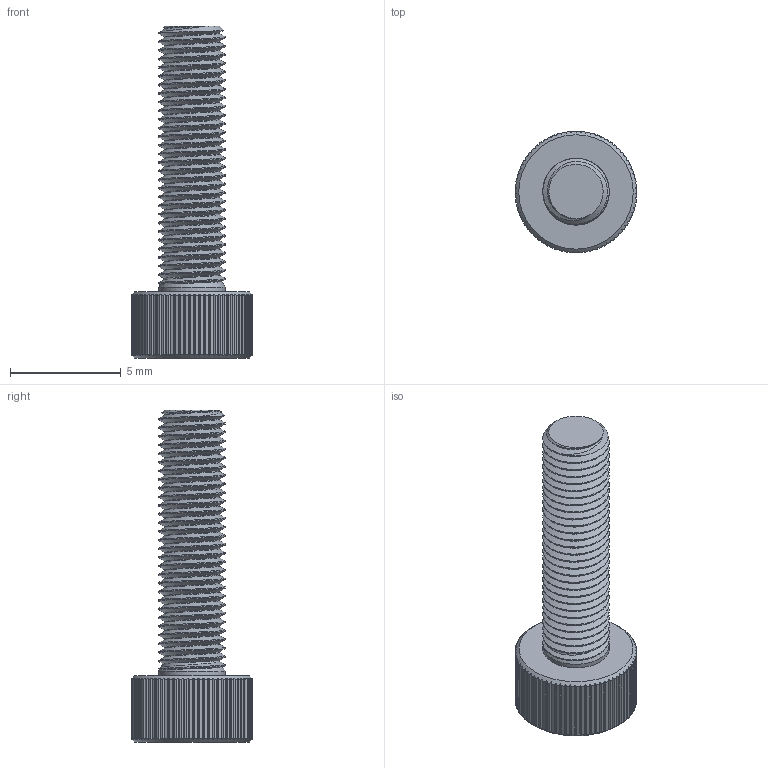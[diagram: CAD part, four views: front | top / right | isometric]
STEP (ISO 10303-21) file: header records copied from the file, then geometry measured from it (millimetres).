
FILE_DESCRIPTION(/* description */ ('STEP AP242 Edition 2','CAx-IF Rec.Pracs.---Representation and Presentation of Product Manufacturing Information (PMI)---4.0---2014-10-13','CAx-IF Rec.Pracs.---3D Tessellated Geometry---0.4---2014-09-14','2;1','CAx-IF Rec.Pracs.---User Defined Attributes---1.5---2016-08-15'),/* implementation_level */ '2;1');
FILE_NAME(/* name */ 'Main - M4 12mm (1)',/* time_stamp */ '2026-09-13T15:49:58Z',/* author */ (''),/* organization */ (''),/* preprocessor_version */ 'ST-DEVELOPER v20',/* originating_system */ 'ONSHAPE BY PTC INC, 1.220',/* authorisation */ ' ');
FILE_SCHEMA (('AP242_MANAGED_MODEL_BASED_3D_ENGINEERING_MIM_LF { 1 0 10303 442 3 1 4 }'));
Length unit declared in the file: metre
Products named in the file (1): M4 12mm
Bounding box: 5.5 x 5.5 x 15 mm (x, y, z)
Volume: 131.6 mm3; surface area: 296.9 mm2
Topology: 1 solids, 1 shells, 278 faces, 811 edges, 537 vertices
Faces by surface type: plane 160, cylinder 105, cone 10, bspline 3
Full cylindrical faces by diameter (mm): 3 x29
Entity records: 13753 total; most frequent: CARTESIAN_POINT 6771, DIRECTION 1657, ORIENTED_EDGE 1434, EDGE_CURVE 717, AXIS2_PLACEMENT_3D 710, VERTEX_POINT 476, CIRCLE 463, EDGE_LOOP 255
